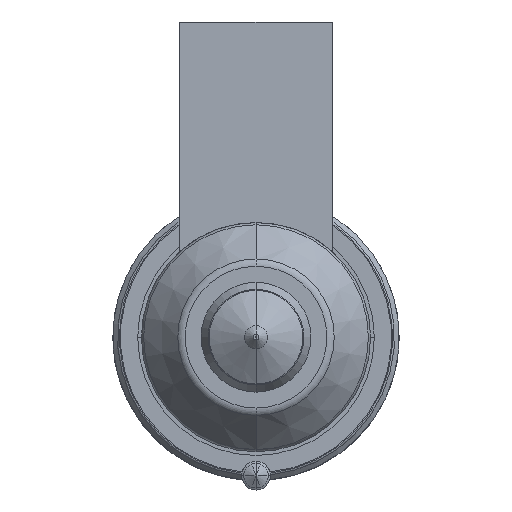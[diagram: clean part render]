
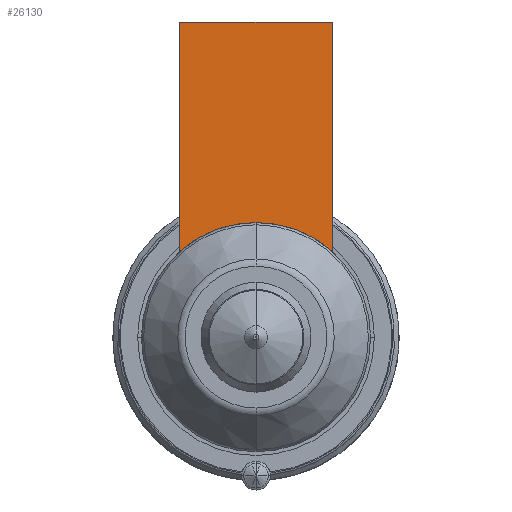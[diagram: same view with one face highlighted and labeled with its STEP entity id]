
A CAD part, front view. The second image highlights one B-rep face of the part: STEP entity #26130.
In plain terms, the highlighted planar face has unit normal (0, -1, 0).
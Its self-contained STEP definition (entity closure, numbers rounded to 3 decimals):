
#25307=DIRECTION('',(0.,0.,-1.));
#25308=VECTOR('',#25307,24.056);
#25309=CARTESIAN_POINT('',(-8.,-56.,33.));
#25310=LINE('',#25309,#25308);
#25322=CARTESIAN_POINT('',(0.,-56.,0.));
#25323=DIRECTION('',(0.,-1.,0.));
#25324=DIRECTION('',(0.,0.,1.));
#25325=AXIS2_PLACEMENT_3D('',#25322,#25323,#25324);
#25330=DIRECTION('',(1.,0.,0.));
#25331=VECTOR('',#25330,16.);
#25332=CARTESIAN_POINT('',(-8.,-56.,33.));
#25333=LINE('',#25332,#25331);
#25337=CARTESIAN_POINT('',(0.,-56.,0.));
#25338=DIRECTION('',(0.,-1.,0.));
#25339=DIRECTION('',(0.667,0.,0.745));
#25340=AXIS2_PLACEMENT_3D('',#25337,#25338,#25339);
#25492=DIRECTION('',(0.,0.,-1.));
#25493=VECTOR('',#25492,24.056);
#25494=CARTESIAN_POINT('',(8.,-56.,33.));
#25495=LINE('',#25494,#25493);
#26045=CARTESIAN_POINT('',(-8.,-56.,33.));
#26046=VERTEX_POINT('',#26045);
#26051=CARTESIAN_POINT('',(8.,-56.,33.));
#26052=VERTEX_POINT('',#26051);
#26054=CARTESIAN_POINT('',(-8.,-56.,8.944));
#26056=VERTEX_POINT('',#26054);
#26058=CARTESIAN_POINT('',(8.,-56.,8.944));
#26060=VERTEX_POINT('',#26058);
#26063=CARTESIAN_POINT('',(0.,-56.,12.));
#26064=VERTEX_POINT('',#26063);
#26115=CARTESIAN_POINT('',(-8.,-56.,33.));
#26116=DIRECTION('',(0.,-1.,0.));
#26117=DIRECTION('',(0.,0.,-1.));
#26118=AXIS2_PLACEMENT_3D('',#26115,#26116,#26117);
#26119=PLANE('',#26118);
#26120=ORIENTED_EDGE('',*,*,#26094,.T.);
#26121=ORIENTED_EDGE('',*,*,#26083,.F.);
#26123=ORIENTED_EDGE('',*,*,#26122,.T.);
#26125=ORIENTED_EDGE('',*,*,#26124,.T.);
#26127=ORIENTED_EDGE('',*,*,#26126,.T.);
#26128=EDGE_LOOP('',(#26120,#26121,#26123,#26125,#26127));
#26129=FACE_OUTER_BOUND('',#26128,.F.);
#26130=ADVANCED_FACE('',(#26129),#26119,.T.);
#25326=CIRCLE('',#25325,12.);
#25341=CIRCLE('',#25340,12.);
#26083=EDGE_CURVE('',#26046,#26056,#25310,.T.);
#26094=EDGE_CURVE('',#26064,#26056,#25326,.T.);
#26122=EDGE_CURVE('',#26046,#26052,#25333,.T.);
#26124=EDGE_CURVE('',#26052,#26060,#25495,.T.);
#26126=EDGE_CURVE('',#26060,#26064,#25341,.T.);
